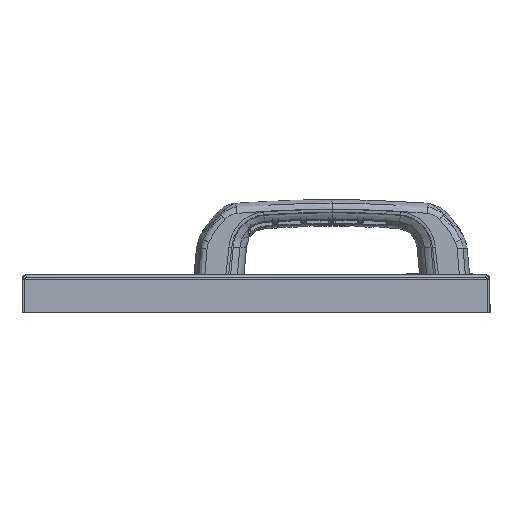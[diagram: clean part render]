
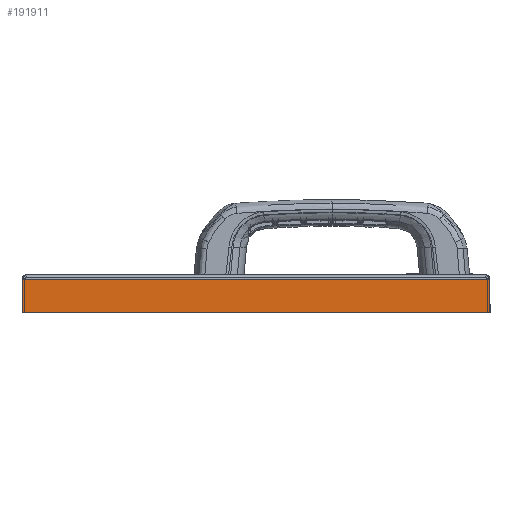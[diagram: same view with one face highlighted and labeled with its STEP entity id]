
A CAD part, left-side view. The second image highlights one B-rep face of the part: STEP entity #191911.
In plain terms, the highlighted planar face has unit normal (-1, 0, 0).
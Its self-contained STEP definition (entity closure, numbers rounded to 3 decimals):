
#187296=CARTESIAN_POINT(' ',(0.,247.,-2.3));
#187297=VERTEX_POINT(' ',#187296);
#187311=CARTESIAN_POINT(' ',(0.,247.,-2.3));
#187316=DIRECTION(' ',(0.,-1.,0.));
#187321=VECTOR(' ',#187316,1.);
#187326=LINE('',#187311,#187321);
#187331=CARTESIAN_POINT(' ',(0.,0.,-2.3));
#187332=VERTEX_POINT(' ',#187331);
#187336=EDGE_CURVE(' ',#187297,#187332,#187326,.T.);
#191771=DIRECTION(' ',(-1.,-0.,-0.));
#191776=CARTESIAN_POINT(' ',(0.,0.,-2.3));
#191781=DIRECTION(' ',(-0.,1.,0.));
#191786=AXIS2_PLACEMENT_3D(' ',#191776,#191771,#191781);
#191791=PLANE('NONE',#191786);
#191796=CARTESIAN_POINT(' ',(0.,0.,-20.));
#191801=DIRECTION(' ',(0.,0.,1.));
#191806=VECTOR(' ',#191801,1.);
#191811=LINE('',#191796,#191806);
#191816=CARTESIAN_POINT(' ',(0.,0.,-20.));
#191817=VERTEX_POINT(' ',#191816);
#191821=EDGE_CURVE(' ',#191817,#187332,#191811,.T.);
#191826=ORIENTED_EDGE(' ',*,*,#191821,.T.);
#191831=ORIENTED_EDGE(' ',*,*,#187336,.F.);
#191836=CARTESIAN_POINT(' ',(0.,247.,-20.));
#191841=DIRECTION(' ',(0.,0.,1.));
#191846=VECTOR(' ',#191841,1.);
#191851=LINE('',#191836,#191846);
#191856=CARTESIAN_POINT(' ',(0.,247.,-20.));
#191857=VERTEX_POINT(' ',#191856);
#191861=EDGE_CURVE(' ',#191857,#187297,#191851,.T.);
#191866=ORIENTED_EDGE(' ',*,*,#191861,.F.);
#191871=CARTESIAN_POINT(' ',(0.,247.,-20.));
#191876=DIRECTION(' ',(0.,-1.,0.));
#191881=VECTOR(' ',#191876,1.);
#191886=LINE('',#191871,#191881);
#191891=EDGE_CURVE(' ',#191857,#191817,#191886,.T.);
#191896=ORIENTED_EDGE(' ',*,*,#191891,.T.);
#191901=EDGE_LOOP(' ',(#191826,#191831,#191866,#191896));
#191906=FACE_OUTER_BOUND(' ',#191901,.T.);
#191911=ADVANCED_FACE('NONE',(#191906),#191791,.T.);
